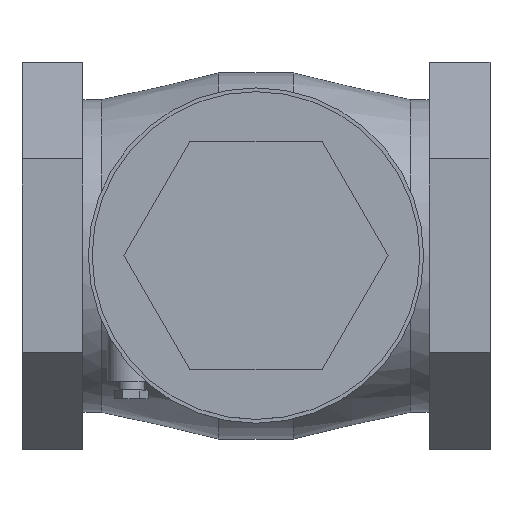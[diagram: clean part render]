
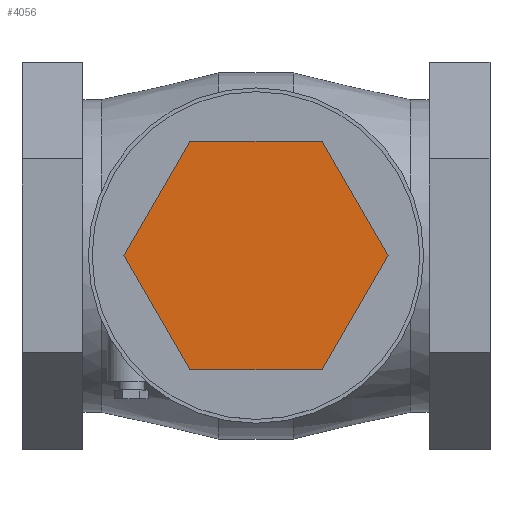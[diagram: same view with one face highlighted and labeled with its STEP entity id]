
A CAD part, top view. The second image highlights one B-rep face of the part: STEP entity #4056.
In plain terms, the highlighted planar face has unit normal (0, 0, 1).
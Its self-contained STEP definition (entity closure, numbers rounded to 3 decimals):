
#352 = PLANE('',#353);
#353 = AXIS2_PLACEMENT_3D('',#354,#355,#356);
#354 = CARTESIAN_POINT('',(3.42,-1.673,3.86));
#355 = DIRECTION('',(0.,-1.,0.));
#356 = DIRECTION('',(1.,0.,0.));
#380 = PLANE('',#381);
#381 = AXIS2_PLACEMENT_3D('',#382,#383,#384);
#382 = CARTESIAN_POINT('',(1.972,-0.836,3.86));
#383 = DIRECTION('',(-0.866,-0.5,0.));
#384 = DIRECTION('',(0.5,-0.866,0.));
#408 = PLANE('',#409);
#409 = AXIS2_PLACEMENT_3D('',#410,#411,#412);
#410 = CARTESIAN_POINT('',(1.972,0.836,3.86));
#411 = DIRECTION('',(-0.866,0.5,0.));
#412 = DIRECTION('',(-0.5,-0.866,0.));
#436 = PLANE('',#437);
#437 = AXIS2_PLACEMENT_3D('',#438,#439,#440);
#438 = CARTESIAN_POINT('',(3.42,1.673,3.86));
#439 = DIRECTION('',(0.,1.,0.));
#440 = DIRECTION('',(-1.,0.,0.));
#464 = PLANE('',#465);
#465 = AXIS2_PLACEMENT_3D('',#466,#467,#468);
#466 = CARTESIAN_POINT('',(4.868,0.836,3.86));
#467 = DIRECTION('',(0.866,0.5,0.));
#468 = DIRECTION('',(-0.5,0.866,0.));
#490 = PLANE('',#491);
#491 = AXIS2_PLACEMENT_3D('',#492,#493,#494);
#492 = CARTESIAN_POINT('',(4.868,-0.836,3.86));
#493 = DIRECTION('',(0.866,-0.5,0.));
#494 = DIRECTION('',(0.5,0.866,0.));
#3761 = EDGE_CURVE('',#3762,#3764,#3766,.T.);
#3762 = VERTEX_POINT('',#3763);
#3763 = CARTESIAN_POINT('',(4.386,-1.673,4.53));
#3764 = VERTEX_POINT('',#3765);
#3765 = CARTESIAN_POINT('',(2.454,-1.673,4.53));
#3766 = SURFACE_CURVE('',#3767,(#3771,#3778),.PCURVE_S1.);
#3767 = LINE('',#3768,#3769);
#3768 = CARTESIAN_POINT('',(2.454,-1.673,4.53));
#3769 = VECTOR('',#3770,1.);
#3770 = DIRECTION('',(-1.,0.,0.));
#3771 = PCURVE('',#352,#3772);
#3772 = DEFINITIONAL_REPRESENTATION('',(#3773),#3777);
#3773 = LINE('',#3774,#3775);
#3774 = CARTESIAN_POINT('',(-0.966,0.67));
#3775 = VECTOR('',#3776,1.);
#3776 = DIRECTION('',(-1.,0.));
#3777 = ( GEOMETRIC_REPRESENTATION_CONTEXT(2) 
PARAMETRIC_REPRESENTATION_CONTEXT() REPRESENTATION_CONTEXT('2D SPACE',''
  ) );
#3778 = PCURVE('',#3779,#3784);
#3779 = PLANE('',#3780);
#3780 = AXIS2_PLACEMENT_3D('',#3781,#3782,#3783);
#3781 = CARTESIAN_POINT('',(3.42,0.,4.53));
#3782 = DIRECTION('',(0.,0.,1.));
#3783 = DIRECTION('',(1.,0.,-0.));
#3784 = DEFINITIONAL_REPRESENTATION('',(#3785),#3789);
#3785 = LINE('',#3786,#3787);
#3786 = CARTESIAN_POINT('',(-0.966,-1.673));
#3787 = VECTOR('',#3788,1.);
#3788 = DIRECTION('',(-1.,0.));
#3789 = ( GEOMETRIC_REPRESENTATION_CONTEXT(2) 
PARAMETRIC_REPRESENTATION_CONTEXT() REPRESENTATION_CONTEXT('2D SPACE',''
  ) );
#3837 = EDGE_CURVE('',#3764,#3838,#3840,.T.);
#3838 = VERTEX_POINT('',#3839);
#3839 = CARTESIAN_POINT('',(1.489,0.,4.53));
#3840 = SURFACE_CURVE('',#3841,(#3845,#3852),.PCURVE_S1.);
#3841 = LINE('',#3842,#3843);
#3842 = CARTESIAN_POINT('',(1.489,0.,4.53));
#3843 = VECTOR('',#3844,1.);
#3844 = DIRECTION('',(-0.5,0.866,0.));
#3845 = PCURVE('',#380,#3846);
#3846 = DEFINITIONAL_REPRESENTATION('',(#3847),#3851);
#3847 = LINE('',#3848,#3849);
#3848 = CARTESIAN_POINT('',(-0.966,0.67));
#3849 = VECTOR('',#3850,1.);
#3850 = DIRECTION('',(-1.,0.));
#3851 = ( GEOMETRIC_REPRESENTATION_CONTEXT(2) 
PARAMETRIC_REPRESENTATION_CONTEXT() REPRESENTATION_CONTEXT('2D SPACE',''
  ) );
#3852 = PCURVE('',#3779,#3853);
#3853 = DEFINITIONAL_REPRESENTATION('',(#3854),#3858);
#3854 = LINE('',#3855,#3856);
#3855 = CARTESIAN_POINT('',(-1.931,0.));
#3856 = VECTOR('',#3857,1.);
#3857 = DIRECTION('',(-0.5,0.866));
#3858 = ( GEOMETRIC_REPRESENTATION_CONTEXT(2) 
PARAMETRIC_REPRESENTATION_CONTEXT() REPRESENTATION_CONTEXT('2D SPACE',''
  ) );
#3886 = EDGE_CURVE('',#3838,#3887,#3889,.T.);
#3887 = VERTEX_POINT('',#3888);
#3888 = CARTESIAN_POINT('',(2.454,1.673,4.53));
#3889 = SURFACE_CURVE('',#3890,(#3894,#3901),.PCURVE_S1.);
#3890 = LINE('',#3891,#3892);
#3891 = CARTESIAN_POINT('',(2.454,1.673,4.53));
#3892 = VECTOR('',#3893,1.);
#3893 = DIRECTION('',(0.5,0.866,0.));
#3894 = PCURVE('',#408,#3895);
#3895 = DEFINITIONAL_REPRESENTATION('',(#3896),#3900);
#3896 = LINE('',#3897,#3898);
#3897 = CARTESIAN_POINT('',(-0.966,0.67));
#3898 = VECTOR('',#3899,1.);
#3899 = DIRECTION('',(-1.,0.));
#3900 = ( GEOMETRIC_REPRESENTATION_CONTEXT(2) 
PARAMETRIC_REPRESENTATION_CONTEXT() REPRESENTATION_CONTEXT('2D SPACE',''
  ) );
#3901 = PCURVE('',#3779,#3902);
#3902 = DEFINITIONAL_REPRESENTATION('',(#3903),#3907);
#3903 = LINE('',#3904,#3905);
#3904 = CARTESIAN_POINT('',(-0.966,1.673));
#3905 = VECTOR('',#3906,1.);
#3906 = DIRECTION('',(0.5,0.866));
#3907 = ( GEOMETRIC_REPRESENTATION_CONTEXT(2) 
PARAMETRIC_REPRESENTATION_CONTEXT() REPRESENTATION_CONTEXT('2D SPACE',''
  ) );
#3935 = EDGE_CURVE('',#3887,#3936,#3938,.T.);
#3936 = VERTEX_POINT('',#3937);
#3937 = CARTESIAN_POINT('',(4.386,1.673,4.53));
#3938 = SURFACE_CURVE('',#3939,(#3943,#3950),.PCURVE_S1.);
#3939 = LINE('',#3940,#3941);
#3940 = CARTESIAN_POINT('',(4.386,1.673,4.53));
#3941 = VECTOR('',#3942,1.);
#3942 = DIRECTION('',(1.,0.,0.));
#3943 = PCURVE('',#436,#3944);
#3944 = DEFINITIONAL_REPRESENTATION('',(#3945),#3949);
#3945 = LINE('',#3946,#3947);
#3946 = CARTESIAN_POINT('',(-0.966,0.67));
#3947 = VECTOR('',#3948,1.);
#3948 = DIRECTION('',(-1.,0.));
#3949 = ( GEOMETRIC_REPRESENTATION_CONTEXT(2) 
PARAMETRIC_REPRESENTATION_CONTEXT() REPRESENTATION_CONTEXT('2D SPACE',''
  ) );
#3950 = PCURVE('',#3779,#3951);
#3951 = DEFINITIONAL_REPRESENTATION('',(#3952),#3956);
#3952 = LINE('',#3953,#3954);
#3953 = CARTESIAN_POINT('',(0.966,1.673));
#3954 = VECTOR('',#3955,1.);
#3955 = DIRECTION('',(1.,0.));
#3956 = ( GEOMETRIC_REPRESENTATION_CONTEXT(2) 
PARAMETRIC_REPRESENTATION_CONTEXT() REPRESENTATION_CONTEXT('2D SPACE',''
  ) );
#3984 = EDGE_CURVE('',#3936,#3985,#3987,.T.);
#3985 = VERTEX_POINT('',#3986);
#3986 = CARTESIAN_POINT('',(5.351,0.,4.53));
#3987 = SURFACE_CURVE('',#3988,(#3992,#3999),.PCURVE_S1.);
#3988 = LINE('',#3989,#3990);
#3989 = CARTESIAN_POINT('',(5.351,0.,4.53));
#3990 = VECTOR('',#3991,1.);
#3991 = DIRECTION('',(0.5,-0.866,0.));
#3992 = PCURVE('',#464,#3993);
#3993 = DEFINITIONAL_REPRESENTATION('',(#3994),#3998);
#3994 = LINE('',#3995,#3996);
#3995 = CARTESIAN_POINT('',(-0.966,0.67));
#3996 = VECTOR('',#3997,1.);
#3997 = DIRECTION('',(-1.,0.));
#3998 = ( GEOMETRIC_REPRESENTATION_CONTEXT(2) 
PARAMETRIC_REPRESENTATION_CONTEXT() REPRESENTATION_CONTEXT('2D SPACE',''
  ) );
#3999 = PCURVE('',#3779,#4000);
#4000 = DEFINITIONAL_REPRESENTATION('',(#4001),#4005);
#4001 = LINE('',#4002,#4003);
#4002 = CARTESIAN_POINT('',(1.931,0.));
#4003 = VECTOR('',#4004,1.);
#4004 = DIRECTION('',(0.5,-0.866));
#4005 = ( GEOMETRIC_REPRESENTATION_CONTEXT(2) 
PARAMETRIC_REPRESENTATION_CONTEXT() REPRESENTATION_CONTEXT('2D SPACE',''
  ) );
#4033 = EDGE_CURVE('',#3985,#3762,#4034,.T.);
#4034 = SURFACE_CURVE('',#4035,(#4039,#4046),.PCURVE_S1.);
#4035 = LINE('',#4036,#4037);
#4036 = CARTESIAN_POINT('',(4.386,-1.673,4.53));
#4037 = VECTOR('',#4038,1.);
#4038 = DIRECTION('',(-0.5,-0.866,0.));
#4039 = PCURVE('',#490,#4040);
#4040 = DEFINITIONAL_REPRESENTATION('',(#4041),#4045);
#4041 = LINE('',#4042,#4043);
#4042 = CARTESIAN_POINT('',(-0.966,0.67));
#4043 = VECTOR('',#4044,1.);
#4044 = DIRECTION('',(-1.,0.));
#4045 = ( GEOMETRIC_REPRESENTATION_CONTEXT(2) 
PARAMETRIC_REPRESENTATION_CONTEXT() REPRESENTATION_CONTEXT('2D SPACE',''
  ) );
#4046 = PCURVE('',#3779,#4047);
#4047 = DEFINITIONAL_REPRESENTATION('',(#4048),#4052);
#4048 = LINE('',#4049,#4050);
#4049 = CARTESIAN_POINT('',(0.966,-1.673));
#4050 = VECTOR('',#4051,1.);
#4051 = DIRECTION('',(-0.5,-0.866));
#4052 = ( GEOMETRIC_REPRESENTATION_CONTEXT(2) 
PARAMETRIC_REPRESENTATION_CONTEXT() REPRESENTATION_CONTEXT('2D SPACE',''
  ) );
#4056 = ADVANCED_FACE('',(#4057),#3779,.T.);
#4057 = FACE_BOUND('',#4058,.T.);
#4058 = EDGE_LOOP('',(#4059,#4060,#4061,#4062,#4063,#4064));
#4059 = ORIENTED_EDGE('',*,*,#3761,.F.);
#4060 = ORIENTED_EDGE('',*,*,#4033,.F.);
#4061 = ORIENTED_EDGE('',*,*,#3984,.F.);
#4062 = ORIENTED_EDGE('',*,*,#3935,.F.);
#4063 = ORIENTED_EDGE('',*,*,#3886,.F.);
#4064 = ORIENTED_EDGE('',*,*,#3837,.F.);
